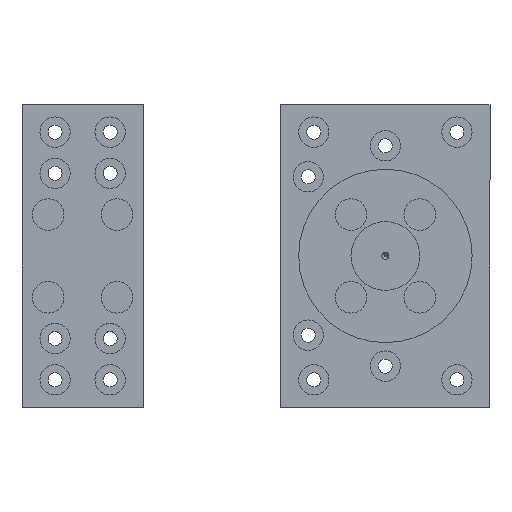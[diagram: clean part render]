
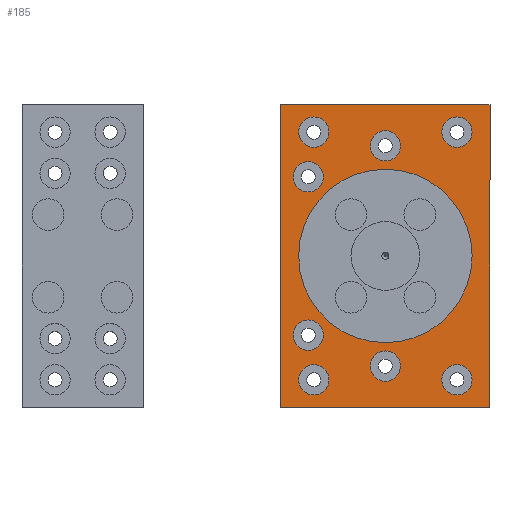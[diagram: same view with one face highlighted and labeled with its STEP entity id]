
A CAD part, top view. The second image highlights one B-rep face of the part: STEP entity #185.
In plain terms, the highlighted planar face has unit normal (0, 0, 1) as drawn and (0, 1, 0) by its records, which use the part's own axes.
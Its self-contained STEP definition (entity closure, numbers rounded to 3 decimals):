
#185=ADVANCED_FACE('',(#960,#962,#964,#966,#968,#970,#972,#974,#976,#978),#980,.T.);
#960=FACE_BOUND('',#961,.T.);
#961=EDGE_LOOP('',(#1984,#1985,#1986,#1987));
#962=FACE_BOUND('',#963,.T.);
#963=EDGE_LOOP('',(#1988));
#964=FACE_BOUND('',#965,.T.);
#965=EDGE_LOOP('',(#1989));
#966=FACE_BOUND('',#967,.T.);
#967=EDGE_LOOP('',(#1990));
#968=FACE_BOUND('',#969,.T.);
#969=EDGE_LOOP('',(#1991));
#970=FACE_BOUND('',#971,.T.);
#971=EDGE_LOOP('',(#1992));
#972=FACE_BOUND('',#973,.T.);
#973=EDGE_LOOP('',(#1993));
#974=FACE_BOUND('',#975,.T.);
#975=EDGE_LOOP('',(#1994));
#976=FACE_BOUND('',#977,.T.);
#977=EDGE_LOOP('',(#1995));
#978=FACE_BOUND('',#979,.T.);
#979=EDGE_LOOP('',(#1996));
#980=PLANE('',#981);
#981=AXIS2_PLACEMENT_3D('',#982,#983,#984);
#982=CARTESIAN_POINT('',(0.,0.,0.));
#983=DIRECTION('',(0.,1.,0.));
#984=DIRECTION('',(0.,0.,-1.));
#1984=ORIENTED_EDGE('',*,*,#2335,.T.);
#1985=ORIENTED_EDGE('',*,*,#2342,.T.);
#1986=ORIENTED_EDGE('',*,*,#2340,.F.);
#1987=ORIENTED_EDGE('',*,*,#2338,.F.);
#1988=ORIENTED_EDGE('',*,*,#2310,.F.);
#1989=ORIENTED_EDGE('',*,*,#2351,.F.);
#1990=ORIENTED_EDGE('',*,*,#2352,.F.);
#1991=ORIENTED_EDGE('',*,*,#2353,.F.);
#1992=ORIENTED_EDGE('',*,*,#2354,.F.);
#1993=ORIENTED_EDGE('',*,*,#2355,.F.);
#1994=ORIENTED_EDGE('',*,*,#2356,.F.);
#1995=ORIENTED_EDGE('',*,*,#2357,.F.);
#1996=ORIENTED_EDGE('',*,*,#2358,.F.);
#2310=EDGE_CURVE('',#2530,#2530,#2531,.T.);
#2335=EDGE_CURVE('',#2574,#2575,#2576,.T.);
#2338=EDGE_CURVE('',#2574,#2579,#2580,.T.);
#2340=EDGE_CURVE('',#2579,#2582,#2583,.T.);
#2342=EDGE_CURVE('',#2575,#2582,#2585,.T.);
#2351=EDGE_CURVE('',#2602,#2602,#2603,.T.);
#2352=EDGE_CURVE('',#2604,#2604,#2605,.T.);
#2353=EDGE_CURVE('',#2606,#2606,#2607,.T.);
#2354=EDGE_CURVE('',#2608,#2608,#2609,.T.);
#2355=EDGE_CURVE('',#2610,#2610,#2611,.T.);
#2356=EDGE_CURVE('',#2612,#2612,#2613,.T.);
#2357=EDGE_CURVE('',#2614,#2614,#2615,.T.);
#2358=EDGE_CURVE('',#2616,#2616,#2617,.T.);
#2530=VERTEX_POINT('',#2956);
#2531=CIRCLE('',#2957,63.);
#2574=VERTEX_POINT('',#3059);
#2575=VERTEX_POINT('',#3060);
#2576=LINE('',#3061,#3062);
#2579=VERTEX_POINT('',#3070);
#2580=LINE('',#3071,#3072);
#2582=VERTEX_POINT('',#3077);
#2583=LINE('',#3078,#3079);
#2585=LINE('',#3084,#3085);
#2602=VERTEX_POINT('',#3127);
#2603=CIRCLE('',#3128,11.);
#2604=VERTEX_POINT('',#3132);
#2605=CIRCLE('',#3133,11.);
#2606=VERTEX_POINT('',#3137);
#2607=CIRCLE('',#3138,11.);
#2608=VERTEX_POINT('',#3142);
#2609=CIRCLE('',#3143,11.);
#2610=VERTEX_POINT('',#3147);
#2611=CIRCLE('',#3148,11.);
#2612=VERTEX_POINT('',#3152);
#2613=CIRCLE('',#3153,11.);
#2614=VERTEX_POINT('',#3157);
#2615=CIRCLE('',#3158,11.);
#2616=VERTEX_POINT('',#3162);
#2617=CIRCLE('',#3163,11.);
#2956=CARTESIAN_POINT('',(0.,0.,-63.));
#2957=AXIS2_PLACEMENT_3D('',#2958,#2959,#2960);
#2958=CARTESIAN_POINT('',(0.,0.,0.));
#2959=DIRECTION('',(0.,1.,0.));
#2960=DIRECTION('',(0.,0.,1.));
#3059=CARTESIAN_POINT('',(110.,0.,-76.));
#3060=CARTESIAN_POINT('',(-110.,0.,-76.));
#3061=CARTESIAN_POINT('',(110.,0.,-76.));
#3062=VECTOR('',#3063,1.);
#3063=DIRECTION('',(-1.,0.,0.));
#3070=CARTESIAN_POINT('',(110.,0.,76.));
#3071=CARTESIAN_POINT('',(110.,0.,-76.));
#3072=VECTOR('',#3073,1.);
#3073=DIRECTION('',(0.,0.,1.));
#3077=CARTESIAN_POINT('',(-110.,0.,76.));
#3078=CARTESIAN_POINT('',(110.,0.,76.));
#3079=VECTOR('',#3080,1.);
#3080=DIRECTION('',(-1.,0.,0.));
#3084=CARTESIAN_POINT('',(-110.,0.,-76.));
#3085=VECTOR('',#3086,1.);
#3086=DIRECTION('',(0.,0.,1.));
#3127=CARTESIAN_POINT('',(-90.,0.,-63.));
#3128=AXIS2_PLACEMENT_3D('',#3129,#3130,#3131);
#3129=CARTESIAN_POINT('',(-90.,0.,-52.));
#3130=DIRECTION('',(0.,1.,0.));
#3131=DIRECTION('',(0.,0.,1.));
#3132=CARTESIAN_POINT('',(90.,0.,-63.));
#3133=AXIS2_PLACEMENT_3D('',#3134,#3135,#3136);
#3134=CARTESIAN_POINT('',(90.,0.,-52.));
#3135=DIRECTION('',(0.,1.,0.));
#3136=DIRECTION('',(0.,0.,1.));
#3137=CARTESIAN_POINT('',(57.5,0.,-67.));
#3138=AXIS2_PLACEMENT_3D('',#3139,#3140,#3141);
#3139=CARTESIAN_POINT('',(57.5,0.,-56.));
#3140=DIRECTION('',(0.,1.,0.));
#3141=DIRECTION('',(0.,0.,1.));
#3142=CARTESIAN_POINT('',(80.,0.,-11.));
#3143=AXIS2_PLACEMENT_3D('',#3144,#3145,#3146);
#3144=CARTESIAN_POINT('',(80.,0.,0.));
#3145=DIRECTION('',(0.,1.,0.));
#3146=DIRECTION('',(0.,0.,1.));
#3147=CARTESIAN_POINT('',(90.,0.,41.));
#3148=AXIS2_PLACEMENT_3D('',#3149,#3150,#3151);
#3149=CARTESIAN_POINT('',(90.,0.,52.));
#3150=DIRECTION('',(0.,1.,0.));
#3151=DIRECTION('',(0.,0.,1.));
#3152=CARTESIAN_POINT('',(-57.5,0.,-67.));
#3153=AXIS2_PLACEMENT_3D('',#3154,#3155,#3156);
#3154=CARTESIAN_POINT('',(-57.5,0.,-56.));
#3155=DIRECTION('',(0.,1.,0.));
#3156=DIRECTION('',(0.,0.,1.));
#3157=CARTESIAN_POINT('',(-80.,0.,-11.));
#3158=AXIS2_PLACEMENT_3D('',#3159,#3160,#3161);
#3159=CARTESIAN_POINT('',(-80.,0.,0.));
#3160=DIRECTION('',(0.,1.,0.));
#3161=DIRECTION('',(0.,0.,1.));
#3162=CARTESIAN_POINT('',(-90.,0.,41.));
#3163=AXIS2_PLACEMENT_3D('',#3164,#3165,#3166);
#3164=CARTESIAN_POINT('',(-90.,0.,52.));
#3165=DIRECTION('',(0.,1.,0.));
#3166=DIRECTION('',(0.,0.,1.));
